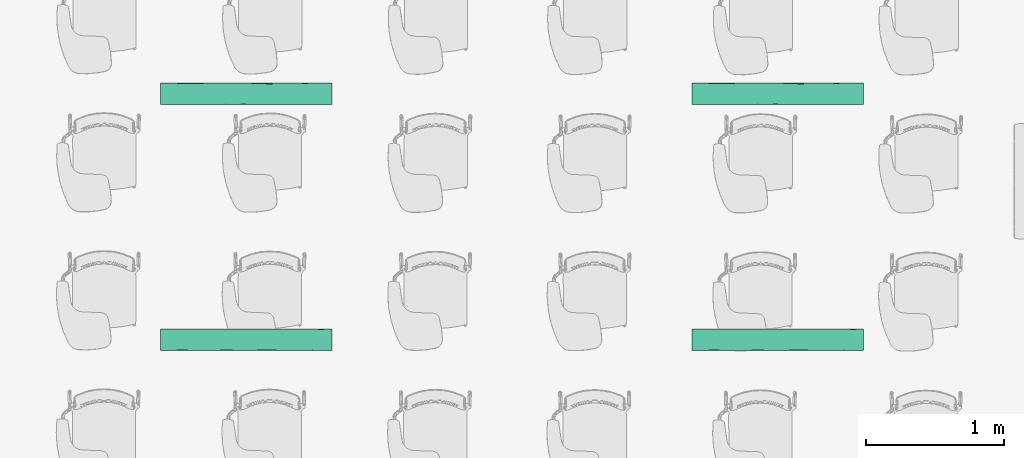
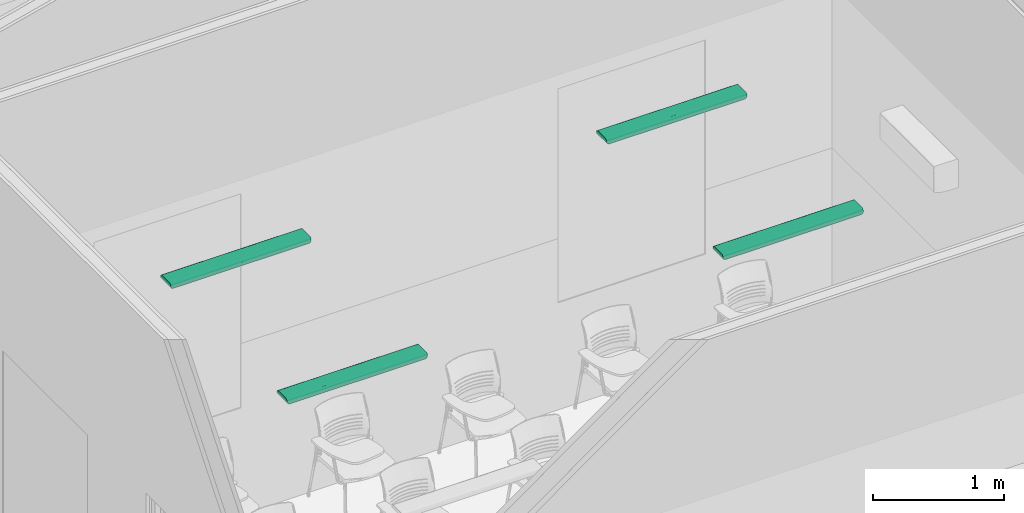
# One storey, part 53 of 155: 4 flow terminals.
"""IFC2X3 building model written with IfcOpenShell, lengths in metres."""

import ifcopenshell
import ifcopenshell.guid

model = None  # the IFC model being written
_history = None  # IfcOwnerHistory: only IFC2X3 demands one
_inside = {}  # id of a spatial element -> (the spatial element, [elements in it])
_under = {}  # id of a project, library or spatial element -> (it, [spatial elements below it])
_declared = {}  # id of a project -> (the project, [libraries it declares])
_typed = {}  # id of a type object -> (the type object, [elements of that type])
_made_of = {}  # id of a material, layer set ... -> (it, [elements and type objects made of it])


def new_model(schema):
    """Start an empty IFC model of exactly this schema.

    Asked for "IFC4X3", IfcOpenShell would pick the latest addendum, in which some entities
    have other attributes; the version numbers below select the first issue.
    IFC2X3 requires an IfcOwnerHistory on every rooted entity: one is made here for all.
    """
    global model, _history
    if schema == "IFC4X3":
        model = ifcopenshell.file(schema_version=(4, 3, 0, 0))
    else:
        model = ifcopenshell.file(schema=schema)
    _inside.clear()
    _under.clear()
    _declared.clear()
    _typed.clear()
    _made_of.clear()
    _history = None
    if model.schema == "IFC2X3":
        org = make("IfcOrganization", Name="unknown")
        user = make(
            "IfcPersonAndOrganization",
            ThePerson=make("IfcPerson", FamilyName="unknown"),
            TheOrganization=org,
        )
        app = make(
            "IfcApplication",
            ApplicationDeveloper=org,
            Version="unknown",
            ApplicationFullName="unknown",
            ApplicationIdentifier="unknown",
        )
        _history = make(
            "IfcOwnerHistory",
            OwningUser=user,
            OwningApplication=app,
            ChangeAction="ADDED",
            CreationDate=0,
        )
    return model


def make(cls, **values):
    """One entity of the class cls with the attributes given. An attribute that is None is left unset."""
    return model.create_entity(
        cls, **{name: value for name, value in values.items() if value is not None}
    )


def entity(cls, *values):
    """Any entity or typed value of the class cls, its attributes in the order of the schema. None: left unset."""
    e = model.create_entity(cls)
    for i, value in enumerate(values):
        if value is not None:
            e[i] = value
    return e


def rooted(cls, **values):
    """An entity with a GlobalId (a new one), such as an element, a storey or a relation."""
    return make(cls, GlobalId=ifcopenshell.guid.new(), OwnerHistory=_history, **values)


def si_unit(unit_type, name, prefix=None):
    """IfcSIUnit, for example si_unit("LENGTHUNIT", "METRE", prefix="MILLI")."""
    return make("IfcSIUnit", UnitType=unit_type, Prefix=prefix, Name=name)


def converted_unit(unit_type, name, factor, base, dimensions=None, offset=None):
    """IfcConversionBasedUnit, such as the inch: factor (a typed value) times the base unit."""
    return make(
        "IfcConversionBasedUnit"
        if offset is None
        else "IfcConversionBasedUnitWithOffset",
        ConversionOffset=offset,
        Dimensions=None
        if dimensions is None
        else entity("IfcDimensionalExponents", *dimensions),
        UnitType=unit_type,
        Name=name,
        ConversionFactor=make(
            "IfcMeasureWithUnit", ValueComponent=factor, UnitComponent=base
        ),
    )


def derived_unit(unit_type, elements):
    """IfcDerivedUnit: a product of units, each with its exponent."""
    return make(
        "IfcDerivedUnit",
        Elements=[
            make("IfcDerivedUnitElement", Unit=unit, Exponent=power)
            for unit, power in elements
        ],
        UnitType=unit_type,
    )


def assignment(units):
    """IfcUnitAssignment: the units of a project."""
    return None if units is None else make("IfcUnitAssignment", Units=units)


def point(xyz):
    """IfcCartesianPoint."""
    return None if xyz is None else make("IfcCartesianPoint", Coordinates=xyz)


def direction(xyz):
    """IfcDirection."""
    return None if xyz is None else make("IfcDirection", DirectionRatios=xyz)


def frame(location, z_axis=None, x_axis=None):
    """IfcAxis2Placement3D, a coordinate frame: its origin and axes. An axis left out is left unset."""
    return make(
        "IfcAxis2Placement3D",
        Location=point(location),
        Axis=direction(z_axis),
        RefDirection=direction(x_axis),
    )


def origin():
    """The frame at (0, 0, 0) with its axes left unset."""
    return frame((0.0, 0.0, 0.0))


def place(relative_to, where):
    """IfcLocalPlacement: puts the frame where relative to a parent placement (None: the world)."""
    return make(
        "IfcLocalPlacement", PlacementRelTo=relative_to, RelativePlacement=where
    )


def context(
    kind, dimensions, precision=None, world=None, true_north=None, identifier=None
):
    """IfcGeometricRepresentationContext, for example the 3D "Model" context."""
    return make(
        "IfcGeometricRepresentationContext",
        ContextIdentifier=identifier,
        ContextType=kind,
        CoordinateSpaceDimension=dimensions,
        Precision=precision,
        WorldCoordinateSystem=world,
        TrueNorth=true_north,
    )


def subcontext(parent, identifier, kind, view, scale=None):
    """IfcGeometricRepresentationSubContext, for example "Body" below "Model"."""
    return make(
        "IfcGeometricRepresentationSubContext",
        ContextIdentifier=identifier,
        ContextType=kind,
        ParentContext=parent,
        TargetScale=scale,
        TargetView=view,
    )


def project(units=None, contexts=None):
    """IfcProject with its units and contexts."""
    return rooted(
        "IfcProject",
        Name="project",
        RepresentationContexts=contexts,
        UnitsInContext=assignment(units),
    )


def spatial(cls, under=None, at=None, **own):
    """A site, building, storey or space (cls), placed at a placement, below another one or the project."""
    s = rooted(cls, ObjectPlacement=at, **own)
    if under is not None:
        _under.setdefault(under.id(), (under, []))[1].append(s)
    return s


def faces_of(points, faces, orient=None, outer=None):
    """IfcFace entities. A face is a list of loops; a loop is a list of indices into points, from 0.

    orient and outer hold one flag for each loop. By default every Orientation is true, the
    first loop of a face is its IfcFaceOuterBound and the others are IfcFaceBound.
    """
    made = []
    for i, loops in enumerate(faces):
        bounds = []
        for j, loop in enumerate(loops):
            is_outer = j == 0 if outer is None else outer[i][j]
            bounds.append(
                make(
                    "IfcFaceOuterBound" if is_outer else "IfcFaceBound",
                    Bound=make("IfcPolyLoop", Polygon=[points[k] for k in loop]),
                    Orientation=True if orient is None else orient[i][j],
                )
            )
        made.append(make("IfcFace", Bounds=bounds))
    return made


def faceted_brep(points, faces, orient=None, outer=None, voids=None):
    """IfcFacetedBrep: a solid bounded by flat faces; with voids (closed shells), ...WithVoids."""
    shared = [point(p) for p in points]
    hull = make("IfcClosedShell", CfsFaces=faces_of(shared, faces, orient, outer))
    if voids is None:
        return make("IfcFacetedBrep", Outer=hull)
    return make(
        "IfcFacetedBrepWithVoids",
        Outer=hull,
        Voids=[
            make(cls, CfsFaces=faces_of(shared, fs, o, b)) for cls, fs, o, b in voids
        ],
    )


def shape(context_of_items, identifier, shape_type, items):
    """IfcShapeRepresentation: the items that make up one representation, for example the "Body"."""
    return make(
        "IfcShapeRepresentation",
        ContextOfItems=context_of_items,
        RepresentationIdentifier=identifier,
        RepresentationType=shape_type,
        Items=items,
    )


def source(mapping_origin, context_of_items, identifier, shape_type, items):
    """IfcRepresentationMap: a shape defined once, which mapped items show again and again."""
    return make(
        "IfcRepresentationMap",
        MappingOrigin=mapping_origin,
        MappedRepresentation=shape(context_of_items, identifier, shape_type, items),
    )


def transform(
    local_origin,
    x_axis=None,
    y_axis=None,
    z_axis=None,
    scale=None,
    scale2=None,
    scale3=None,
    uniform=True,
):
    """IfcCartesianTransformationOperator3D, or its non-uniform kind. x_axis, y_axis, z_axis: its Axis1, 2, 3."""
    if uniform:
        return make(
            "IfcCartesianTransformationOperator3D",
            Axis1=direction(x_axis),
            Axis2=direction(y_axis),
            LocalOrigin=point(local_origin),
            Scale=scale,
            Axis3=direction(z_axis),
        )
    return make(
        "IfcCartesianTransformationOperator3DnonUniform",
        Axis1=direction(x_axis),
        Axis2=direction(y_axis),
        LocalOrigin=point(local_origin),
        Scale=scale,
        Axis3=direction(z_axis),
        Scale2=scale2,
        Scale3=scale3,
    )


def mapped(mapping_source, mapping_target):
    """IfcMappedItem: shows the shape of a source again, moved by a transform."""
    return make(
        "IfcMappedItem", MappingSource=mapping_source, MappingTarget=mapping_target
    )


def material(Name=None, Category=None):
    """IfcMaterial."""
    return make("IfcMaterial", Name=Name, Category=Category)


def material_list(materials):
    """IfcMaterialList."""
    return make("IfcMaterialList", Materials=materials)


def made_of(thing, what):
    """Note that an element or type object is made of a material, layer set ...; save() writes the relation."""
    if what is not None:
        _made_of.setdefault(what.id(), (what, []))[1].append(thing)
    return thing


def type_object(cls, material=None, **own):
    """A type object (cls), such as IfcWallType, which elements share."""
    return made_of(rooted(cls, **own), material)


def type_shapes(of_type, sources):
    """Give a type object the sources (RepresentationMaps) that its elements show as mapped items."""
    of_type.RepresentationMaps = sources


def element(
    cls,
    number,
    at=None,
    inside=None,
    cuts=None,
    type_object=None,
    material=None,
    context=None,
    identifier="Body",
    shape_type=None,
    held_by="IfcProductDefinitionShape",
    body=None,
    shapes=None,
    **own,
):
    """One element of the class cls, such as IfcWall. Its Tag is "e" and its number.

    at: its placement. inside: the storey or other place that contains it. cuts: it is an
    opening in that element (IfcRelVoidsElement). A single representation is given by context,
    identifier, shape_type and body (its items); several are given by shapes. held_by: the class
    of the entity that holds the representations. save() writes the other relations.
    """
    e = rooted(cls, Tag="e%d" % number, ObjectPlacement=at, **own)
    if body is not None:
        shapes = [shape(context, identifier, shape_type, body)]
    if shapes is not None:
        e.Representation = make(held_by, Representations=shapes)
    if inside is not None:
        _inside.setdefault(inside.id(), (inside, []))[1].append(e)
    if cuts is not None:
        rooted(
            "IfcRelVoidsElement", RelatingBuildingElement=cuts, RelatedOpeningElement=e
        )
    if type_object is not None:
        _typed.setdefault(type_object.id(), (type_object, []))[1].append(e)
    return made_of(e, material)


def aggregate(whole, parts):
    """IfcRelAggregates: a whole, such as a stair, and the parts it consists of."""
    return rooted("IfcRelAggregates", RelatingObject=whole, RelatedObjects=parts)


def save(model, path):
    """Write the relations noted so far, then the file.

    IfcRelAggregates (storeys below a building ...), IfcRelContainedInSpatialStructure (elements
    in a storey), IfcRelDefinesByType, IfcRelAssociatesMaterial and IfcRelDeclares: one each for
    every whole, place, type object, material and project.
    """
    for whole, parts in _under.values():
        aggregate(whole, parts)
    for where, things in _inside.values():
        rooted(
            "IfcRelContainedInSpatialStructure",
            RelatedElements=things,
            RelatingStructure=where,
        )
    for kind, things in _typed.values():
        rooted("IfcRelDefinesByType", RelatedObjects=things, RelatingType=kind)
    for what, things in _made_of.values():
        rooted("IfcRelAssociatesMaterial", RelatedObjects=things, RelatingMaterial=what)
    for by, libraries in _declared.values():
        rooted("IfcRelDeclares", RelatingContext=by, RelatedDefinitions=libraries)
    model.write(path)


model = new_model("IFC2X3")

# Units and contexts
model_context = context("Model", 3, precision=1e-05, world=origin(), true_north=direction((6.12303176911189e-17, 1.0)))
body_context = subcontext(model_context, "Body", "Model", "MODEL_VIEW")
ifc_project = project(units=[si_unit("LENGTHUNIT", "METRE"), si_unit("AREAUNIT", "SQUARE_METRE"), si_unit("VOLUMEUNIT", "CUBIC_METRE"), converted_unit("PLANEANGLEUNIT", "DEGREE", entity("IfcRatioMeasure", 0.0174532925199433), si_unit("PLANEANGLEUNIT", "RADIAN"), dimensions=[0, 0, 0, 0, 0, 0, 0]), si_unit("MASSUNIT", "GRAM", prefix="KILO"), derived_unit("MASSDENSITYUNIT", [(si_unit("MASSUNIT", "GRAM", prefix="KILO"), 1), (si_unit("LENGTHUNIT", "METRE"), -3)]), si_unit("TIMEUNIT", "SECOND"), si_unit("FREQUENCYUNIT", "HERTZ"), si_unit("THERMODYNAMICTEMPERATUREUNIT", "DEGREE_CELSIUS"), derived_unit("THERMALTRANSMITTANCEUNIT", [(si_unit("MASSUNIT", "GRAM", prefix="KILO"), 1), (si_unit("THERMODYNAMICTEMPERATUREUNIT", "KELVIN"), -1), (si_unit("TIMEUNIT", "SECOND"), -3)]), derived_unit("VOLUMETRICFLOWRATEUNIT", [(si_unit("LENGTHUNIT", "METRE"), 3), (si_unit("TIMEUNIT", "SECOND"), -1)]), si_unit("ELECTRICCURRENTUNIT", "AMPERE"), si_unit("ELECTRICVOLTAGEUNIT", "VOLT"), si_unit("POWERUNIT", "WATT"), si_unit("FORCEUNIT", "NEWTON", prefix="KILO"), si_unit("ILLUMINANCEUNIT", "LUX"), si_unit("LUMINOUSFLUXUNIT", "LUMEN"), si_unit("LUMINOUSINTENSITYUNIT", "CANDELA"), derived_unit("USERDEFINED", [(si_unit("MASSUNIT", "GRAM", prefix="KILO"), -1), (si_unit("LENGTHUNIT", "METRE"), -2), (si_unit("TIMEUNIT", "SECOND"), 3), (si_unit("LUMINOUSFLUXUNIT", "LUMEN"), 1)]), derived_unit("LINEARVELOCITYUNIT", [(si_unit("LENGTHUNIT", "METRE"), 1), (si_unit("TIMEUNIT", "SECOND"), -1)]), si_unit("PRESSUREUNIT", "PASCAL"), derived_unit("USERDEFINED", [(si_unit("LENGTHUNIT", "METRE"), -2), (si_unit("MASSUNIT", "GRAM", prefix="KILO"), 1), (si_unit("TIMEUNIT", "SECOND"), -2)])], contexts=[model_context])

# Site, building, storey, space
site_placement = place(None, frame((26.9889013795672, -17.5624287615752, 0.0)))
site = spatial("IfcSite", under=ifc_project, at=site_placement, Name="Default", CompositionType="ELEMENT")
building_placement = place(site_placement, origin())
building = spatial("IfcBuilding", under=site, at=building_placement, Name="C. C. L. Monsenhor Antônio Sampaio", CompositionType="ELEMENT")
storey_placement = place(building_placement, frame((0.0, 0.0, 1.19999999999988)))
storey = spatial("IfcBuildingStorey", under=building, at=storey_placement, Name="Nível 1.2", CompositionType="ELEMENT", Elevation=1.19999999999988)
space_placement = place(storey_placement, origin())
space = spatial("IfcSpace", under=storey, at=space_placement, Name="81", CompositionType="ELEMENT", InteriorOrExteriorSpace="INTERNAL")

# Flow terminals
ifc_material_1 = material(Name="glass - blue - t85")
ifc_material_2 = material(Name="metal - aluminium")
ifc_material_list_1 = material_list([ifc_material_1, ifc_material_2])
ifc_material_list_2 = material_list([ifc_material_1, ifc_material_2])
light_fixture_type = type_object("IfcLightFixtureType", Name="BCS460 W16L124 1xLED24/840 MLO-PC", PredefinedType="NOTDEFINED", material=ifc_material_list_2)
shared_shape = source(origin(), body_context, "Body", "Brep", [
    faceted_brep([(0.585000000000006, 0.0435000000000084, -0.0460000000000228), (0.585000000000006, -0.0434999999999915, -0.0460000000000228), (0.585000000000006, -0.0434999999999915, -0.0490000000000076), (0.585000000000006, 0.0435000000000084, -0.0490000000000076), (-0.584999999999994, 0.0435000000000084, -0.0460000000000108), (-0.584999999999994, 0.0435000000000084, -0.0489999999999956), (-0.584999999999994, -0.0434999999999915, -0.0489999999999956), (-0.584999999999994, -0.0434999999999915, -0.0460000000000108)], [[[0, 1, 2, 3]], [[4, 5, 6, 7]], [[3, 5, 4, 0]], [[2, 6, 5, 3]], [[1, 7, 6, 2]], [[0, 4, 7, 1]]]),
    faceted_brep([(-0.584999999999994, -0.0434999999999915, -0.0489999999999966), (0.585000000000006, -0.0434999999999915, -0.0490000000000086), (0.585000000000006, -0.0554999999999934, -0.0490000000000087), (0.417543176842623, -0.0554999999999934, -0.0490000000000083), (0.334912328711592, -0.0554999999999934, -0.0490000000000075), (0.209867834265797, -0.0554999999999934, -0.0490000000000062), (0.0848246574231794, -0.0554999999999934, -0.0490000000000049), (-0.0826321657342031, -0.0554999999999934, -0.0490000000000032), (-0.250087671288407, -0.0554999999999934, -0.0490000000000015), (-0.417543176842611, -0.0554999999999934, -0.0489999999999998), (-0.584999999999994, -0.0554999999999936, -0.0489999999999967), (-0.584999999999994, 0.0435000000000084, -0.0489999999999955), (-0.584999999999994, 0.0555000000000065, -0.0489999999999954), (-0.417543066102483, 0.0555000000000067, -0.0489999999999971), (-0.334913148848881, 0.0555000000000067, -0.048999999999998), (-0.209868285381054, 0.0555000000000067, -0.0489999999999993), (-0.0848248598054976, 0.0555000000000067, -0.0490000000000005), (0.0826306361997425, 0.0555000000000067, -0.0490000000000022), (0.250087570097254, 0.0555000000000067, -0.049000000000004), (0.417544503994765, 0.0555000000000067, -0.0490000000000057), (0.585000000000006, 0.0555000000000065, -0.0490000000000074), (0.585000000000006, 0.0435000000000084, -0.0490000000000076), (0.585000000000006, -0.0434999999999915, -0.0190000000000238), (0.585000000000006, 0.0435000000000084, -0.0190000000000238), (0.585000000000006, 0.0614528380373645, -0.0482162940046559), (0.585000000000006, 0.0670000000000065, -0.0459185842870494), (0.585000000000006, 0.0717634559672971, -0.0422634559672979), (0.585000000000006, 0.0754185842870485, -0.0375000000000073), (0.585000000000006, 0.077716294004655, -0.0319528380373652), (0.585000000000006, 0.0785000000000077, -0.0260000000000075), (0.585000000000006, 0.0785000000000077, 0.0), (0.585000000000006, -0.0784999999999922, 0.0), (0.585000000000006, -0.0784999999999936, -0.02600000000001), (0.585000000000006, -0.0777162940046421, -0.031952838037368), (0.585000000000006, -0.0754185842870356, -0.03750000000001), (0.585000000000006, -0.0717634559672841, -0.0422634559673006), (0.585000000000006, -0.0669999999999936, -0.0459185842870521), (0.585000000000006, -0.0614528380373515, -0.0482162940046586), (-0.584999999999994, 0.0435000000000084, -0.0190000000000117), (-0.584999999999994, -0.0434999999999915, -0.0190000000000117), (-0.584999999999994, -0.0614528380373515, -0.0482162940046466), (-0.584999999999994, -0.0669999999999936, -0.0459185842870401), (-0.584999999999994, -0.0717634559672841, -0.0422634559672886), (-0.584999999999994, -0.0754185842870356, -0.037499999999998), (-0.584999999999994, -0.0777162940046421, -0.031952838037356), (-0.584999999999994, -0.0784999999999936, -0.025999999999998), (-0.584999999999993, -0.0784999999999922, 0.0), (-0.584999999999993, 0.0785000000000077, 0.0), (-0.584999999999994, 0.0785000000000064, -0.0259999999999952), (-0.584999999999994, 0.077716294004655, -0.0319528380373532), (-0.584999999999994, 0.0754185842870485, -0.0374999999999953), (-0.584999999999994, 0.0717634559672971, -0.0422634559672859), (-0.584999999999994, 0.0670000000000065, -0.0459185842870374), (-0.584999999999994, 0.0614528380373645, -0.0482162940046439), (0.417543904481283, 0.0785000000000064, -0.0260000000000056), (0.334912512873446, 0.0785000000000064, -0.0260000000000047), (0.209868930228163, 0.0785000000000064, -0.0260000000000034), (0.0848250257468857, 0.0785000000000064, -0.0260000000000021), (-0.0826310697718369, 0.0785000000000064, -0.0260000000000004), (-0.250087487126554, 0.0785000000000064, -0.0259999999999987), (-0.417543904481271, 0.0785000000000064, -0.025999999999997), (-0.430283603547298, 0.073747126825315, -0.0400015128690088), (-0.39346878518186, 0.069501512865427, -0.0442471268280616), (-0.441987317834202, 0.0643017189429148, -0.0472492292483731), (-0.435801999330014, 0.0759760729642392, -0.0364752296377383), (0.43028360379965, 0.0695015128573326, -0.0442471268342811), (0.393468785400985, 0.0737471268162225, -0.0400015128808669), (-0.166359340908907, 0.0777768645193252, -0.0317220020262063), (-0.333815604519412, 0.078144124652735, -0.0300303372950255), (0.441987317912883, 0.0767492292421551, -0.0348017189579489), (0.376228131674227, 0.0780233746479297, -0.0306580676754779), (-0.0103058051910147, 0.0779837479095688, -0.0308457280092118), (0.147346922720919, 0.0778835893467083, -0.0312891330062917), (0.0846877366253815, 0.0752228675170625, -0.0378325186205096), (0.113930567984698, 0.0669406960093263, -0.0459527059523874), (0.259392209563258, 0.0628104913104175, -0.0478072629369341), (0.138751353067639, 0.0626656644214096, -0.0478552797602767), (-0.327642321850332, 0.0767492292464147, -0.0348017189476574), (-0.44845841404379, 0.0775260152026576, -0.0326222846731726), (0.274715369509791, 0.0767492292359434, -0.0348017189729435), (0.37104983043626, 0.0643017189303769, -0.0472492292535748), (0.333815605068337, 0.0596187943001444, -0.0486282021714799), (0.0893720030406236, 0.0707479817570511, -0.0432191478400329), (-0.0153938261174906, 0.0683034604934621, -0.0451068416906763), (-0.376228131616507, 0.0601580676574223, -0.0485233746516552), (0.0434325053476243, 0.059742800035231, -0.048605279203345), (0.218757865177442, 0.0695015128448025, -0.0442471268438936), (0.464656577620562, 0.0597129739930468, -0.0486108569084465), (0.199843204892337, 0.0732493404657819, -0.0406274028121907), (-0.274715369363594, 0.0643017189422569, -0.0472492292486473), (-0.115235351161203, 0.073747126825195, -0.0400015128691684), (-0.150791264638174, 0.070206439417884, -0.0436839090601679), (-0.272759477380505, 0.0724713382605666, -0.0415233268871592), (-0.00814072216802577, 0.0636892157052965, -0.0474927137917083), (-0.14734692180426, 0.0607891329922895, -0.0483835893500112), (-0.269938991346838, 0.0692956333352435, -0.0444032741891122), (-0.201904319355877, 0.0758204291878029, -0.0367740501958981), (-0.0663340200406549, 0.0763921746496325, -0.0356185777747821), (-0.139314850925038, 0.066006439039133, -0.046460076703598), (-0.430283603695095, -0.0695015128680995, -0.0442471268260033), (-0.393468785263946, -0.073747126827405, -0.0400015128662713), (-0.44198731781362, -0.0767492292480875, -0.0348017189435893), (-0.435801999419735, -0.06597522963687, -0.0464760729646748), (0.430283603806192, -0.0737471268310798, -0.0400015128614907), (0.393468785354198, -0.0695015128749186, -0.0442471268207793), (-0.166359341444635, -0.061222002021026, -0.0482768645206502), (-0.333815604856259, -0.0595303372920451, -0.0486441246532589), (0.441987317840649, -0.0643017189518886, -0.0472492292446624), (0.37622813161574, -0.0601580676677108, -0.0485233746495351), (-0.0103058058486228, -0.0603457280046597, -0.0484837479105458), (0.147346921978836, -0.0607891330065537, -0.0483835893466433), (0.0846877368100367, -0.0673325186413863, -0.0457228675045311), (0.113930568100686, -0.0754527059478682, -0.0374406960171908), (0.259392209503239, -0.0773072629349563, -0.0333104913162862), (0.138751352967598, -0.0773552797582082, -0.0331656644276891), (-0.327642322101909, -0.0643017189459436, -0.047249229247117), (-0.448458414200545, -0.062122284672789, -0.048026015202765), (-0.417543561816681, -0.0784999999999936, -0.0259999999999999), (0.274715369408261, -0.0643017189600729, -0.0472492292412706), (0.371049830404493, -0.0767492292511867, -0.0348017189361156), (0.333815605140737, -0.0781282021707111, -0.0301187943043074), (0.250087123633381, -0.0784999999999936, -0.0260000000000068), (0.0893720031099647, -0.0727191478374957, -0.041247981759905), (-0.0153938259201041, -0.074606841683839, -0.0388034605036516), (-0.376228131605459, -0.0780233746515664, -0.0306580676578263), (0.0826306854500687, -0.0784999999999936, -0.026000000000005), (-0.0848257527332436, -0.0784999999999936, -0.0260000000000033), (0.0434325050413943, -0.0781052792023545, -0.030242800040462), (0.417543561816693, -0.0784999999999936, -0.0260000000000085), (0.21875786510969, -0.0737471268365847, -0.0400015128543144), (0.464656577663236, -0.0781108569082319, -0.0302129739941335), (0.19984320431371, -0.0701274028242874, -0.0437493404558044), (-0.274715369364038, -0.0767492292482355, -0.0348017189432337), (-0.115235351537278, -0.0695015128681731, -0.0442471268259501), (-0.150791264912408, -0.0731839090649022, -0.0407064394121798), (-0.209869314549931, -0.0784999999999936, -0.026000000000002), (-0.334912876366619, -0.0784999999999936, -0.0260000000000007), (-0.272759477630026, -0.071023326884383, -0.0429713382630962), (-0.00814072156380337, -0.0769927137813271, -0.0341892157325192), (-0.147346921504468, -0.0778835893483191, -0.03128913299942), (-0.269938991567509, -0.0739032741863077, -0.0397956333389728), (-0.201904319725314, -0.0662740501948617, -0.0463204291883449), (-0.0663340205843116, -0.0651185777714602, -0.0468921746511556), (-0.139314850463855, -0.0759600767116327, -0.0365064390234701)], [[[0, 1, 2, 3, 4, 5, 6, 7, 8, 9, 10]], [[11, 12, 13, 14, 15, 16, 17, 18, 19, 20, 21]], [[22, 23, 21, 20, 24, 25, 26, 27, 28, 29, 30, 31, 32, 33, 34, 35, 36, 37, 2, 1]], [[12, 11, 38, 39, 0, 10, 40, 41, 42, 43, 44, 45, 46, 47, 48, 49, 50, 51, 52, 53]], [[47, 30, 29, 54, 55, 56, 57, 58, 59, 60, 48]], [[61, 51, 50]], [[62, 51, 61]], [[51, 62, 52]], [[62, 63, 52]], [[63, 53, 52]], [[61, 50, 64]], [[26, 65, 66]], [[26, 25, 65]], [[54, 29, 28]], [[67, 68, 59]], [[69, 70, 28]], [[71, 72, 73]], [[74, 75, 76]], [[26, 66, 27]], [[77, 78, 68]], [[13, 12, 53]], [[69, 27, 66]], [[79, 73, 72]], [[24, 80, 25]], [[70, 79, 72]], [[69, 28, 27]], [[75, 81, 18]], [[82, 74, 83]], [[63, 84, 53]], [[17, 16, 85]], [[19, 18, 81]], [[75, 74, 86]], [[87, 81, 80]], [[73, 79, 88]], [[70, 56, 55, 54]], [[80, 86, 65]], [[89, 63, 62]], [[90, 83, 91]], [[84, 15, 14, 13]], [[61, 77, 92]], [[59, 68, 60]], [[78, 49, 48]], [[20, 87, 24]], [[93, 76, 85]], [[66, 65, 86]], [[65, 25, 80]], [[62, 61, 92]], [[77, 64, 78]], [[92, 90, 91]], [[89, 94, 84]], [[28, 70, 54]], [[79, 69, 66]], [[53, 84, 13]], [[91, 95, 92]], [[96, 90, 92]], [[56, 72, 57]], [[70, 69, 79]], [[70, 72, 56]], [[67, 59, 58]], [[71, 67, 58]], [[71, 58, 57]], [[83, 90, 82]], [[88, 82, 73]], [[96, 97, 90]], [[71, 73, 97]], [[15, 94, 16]], [[84, 63, 89]], [[84, 94, 15]], [[98, 83, 93]], [[83, 98, 91]], [[18, 17, 76]], [[62, 92, 95]], [[98, 95, 91]], [[98, 94, 89]], [[74, 76, 93]], [[93, 94, 98]], [[85, 16, 94]], [[19, 81, 87]], [[80, 81, 75]], [[19, 87, 20]], [[24, 87, 80]], [[78, 48, 60]], [[77, 68, 67]], [[68, 78, 60]], [[49, 78, 50]], [[78, 64, 50]], [[64, 77, 61]], [[94, 93, 85]], [[85, 76, 17]], [[97, 67, 71]], [[72, 71, 57]], [[77, 67, 96]], [[90, 97, 73]], [[97, 96, 67]], [[77, 96, 92]], [[80, 75, 86]], [[76, 75, 18]], [[95, 89, 62]], [[89, 95, 98]], [[86, 74, 82]], [[83, 74, 93]], [[86, 82, 88]], [[73, 82, 90]], [[88, 66, 86]], [[66, 88, 79]], [[99, 42, 41]], [[100, 42, 99]], [[42, 100, 43]], [[100, 101, 43]], [[101, 44, 43]], [[99, 41, 102]], [[35, 103, 104]], [[35, 34, 103]], [[3, 2, 37]], [[105, 106, 8]], [[107, 108, 37]], [[109, 110, 111]], [[112, 113, 114]], [[35, 104, 36]], [[115, 116, 106]], [[117, 45, 44]], [[107, 36, 104]], [[118, 111, 110]], [[33, 119, 34]], [[108, 118, 110]], [[107, 37, 36]], [[113, 120, 121]], [[122, 112, 123]], [[101, 124, 44]], [[125, 126, 127]], [[128, 121, 120]], [[113, 112, 129]], [[130, 120, 119]], [[111, 118, 131]], [[108, 5, 4, 3]], [[119, 129, 103]], [[132, 101, 100]], [[133, 123, 134]], [[124, 135, 136, 117]], [[99, 115, 137]], [[8, 106, 9]], [[116, 40, 10]], [[32, 130, 33]], [[138, 114, 127]], [[104, 103, 129]], [[103, 34, 119]], [[100, 99, 137]], [[115, 102, 116]], [[137, 133, 134]], [[132, 139, 124]], [[37, 108, 3]], [[118, 107, 104]], [[44, 124, 117]], [[134, 140, 137]], [[141, 133, 137]], [[5, 110, 6]], [[108, 107, 118]], [[108, 110, 5]], [[105, 8, 7]], [[109, 105, 7]], [[109, 7, 6]], [[123, 133, 122]], [[131, 122, 111]], [[141, 142, 133]], [[109, 111, 142]], [[135, 139, 126]], [[124, 101, 132]], [[124, 139, 135]], [[143, 123, 138]], [[123, 143, 134]], [[121, 125, 114]], [[100, 137, 140]], [[143, 140, 134]], [[143, 139, 132]], [[112, 114, 138]], [[138, 139, 143]], [[127, 126, 139]], [[128, 120, 130]], [[119, 120, 113]], [[128, 130, 32]], [[33, 130, 119]], [[116, 10, 9]], [[115, 106, 105]], [[106, 116, 9]], [[40, 116, 41]], [[116, 102, 41]], [[102, 115, 99]], [[139, 138, 127]], [[127, 114, 125]], [[142, 105, 109]], [[110, 109, 6]], [[115, 105, 141]], [[133, 142, 111]], [[142, 141, 105]], [[115, 141, 137]], [[119, 113, 129]], [[114, 113, 121]], [[140, 132, 100]], [[132, 140, 143]], [[129, 112, 122]], [[123, 112, 138]], [[129, 122, 131]], [[111, 122, 133]], [[131, 104, 129]], [[104, 131, 118]], [[31, 46, 45, 117, 136, 135, 126, 125, 121, 128, 32]], [[46, 31, 30, 47]], [[21, 23, 38, 11]], [[22, 1, 0, 39]], [[23, 22, 39, 38]]]),
    faceted_brep([(0.597000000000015, 0.0785000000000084, 0.0), (0.602952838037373, 0.0785000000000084, -0.000783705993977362), (0.608500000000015, 0.0785000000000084, -0.00308141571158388), (0.613263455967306, 0.0785000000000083, -0.00673654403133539), (0.616918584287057, 0.0785000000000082, -0.011499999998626), (0.619216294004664, 0.0785000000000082, -0.017047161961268), (0.620000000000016, 0.0785000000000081, -0.0229999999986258), (0.620000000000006, 0.0785000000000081, -0.0259999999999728), (0.585000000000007, 0.0785000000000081, -0.0259999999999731), (0.585000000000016, 0.0785000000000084, 0.0), (0.619216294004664, -0.0784999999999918, -0.0170471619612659), (0.616918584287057, -0.0784999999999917, -0.0114999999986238), (0.613263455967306, -0.0784999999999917, -0.00673654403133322), (0.608500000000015, -0.0784999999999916, -0.00308141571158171), (0.602952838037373, -0.0784999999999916, -0.000783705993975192), (0.597000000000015, -0.0784999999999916, 0.0), (0.585000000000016, -0.0784999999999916, 0.0), (0.585000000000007, -0.0784999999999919, -0.0260000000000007), (0.620000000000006, -0.0784999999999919, -0.0260000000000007), (0.620000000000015, -0.0784999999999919, -0.0229999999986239), (0.620000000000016, 0.0669999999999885, -0.0459185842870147), (0.620000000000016, 0.0717634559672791, -0.0422634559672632), (0.620000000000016, 0.0754185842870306, -0.0374999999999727), (0.620000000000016, 0.0777162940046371, -0.0319528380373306), (0.620000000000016, -0.0777162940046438, -0.0319528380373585), (0.620000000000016, -0.0754185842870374, -0.0375000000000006), (0.620000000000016, -0.071763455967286, -0.0422634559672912), (0.620000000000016, -0.0669999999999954, -0.0459185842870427), (0.620000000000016, -0.0614528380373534, -0.0482162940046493), (0.620000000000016, -0.0554999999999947, -0.0489999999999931), (0.620000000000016, 0.0554999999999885, -0.0489999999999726), (0.620000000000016, 0.0614528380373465, -0.0482162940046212), (0.585000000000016, 0.0554999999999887, -0.048999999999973), (0.585000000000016, -0.0554999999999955, -0.0490000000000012), (0.585000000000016, -0.0614528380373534, -0.0482162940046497), (0.585000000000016, -0.0669999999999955, -0.0459185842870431), (0.585000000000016, -0.071763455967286, -0.0422634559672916), (0.585000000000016, -0.0754185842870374, -0.0375000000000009), (0.585000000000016, -0.0777162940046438, -0.0319528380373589), (0.585000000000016, 0.0777162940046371, -0.031952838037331), (0.585000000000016, 0.0754185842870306, -0.037499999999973), (0.585000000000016, 0.0717634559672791, -0.0422634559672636), (0.585000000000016, 0.0669999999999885, -0.0459185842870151), (0.585000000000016, 0.0614528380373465, -0.0482162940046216)], [[[0, 1, 2, 3, 4, 5, 6, 7, 8, 9]], [[10, 11, 12, 13, 14, 15, 16, 17, 18, 19]], [[20, 21, 22, 23, 7, 6, 19, 18, 24, 25, 26, 27, 28, 29, 30, 31]], [[32, 33, 34, 35, 36, 37, 38, 17, 16, 9, 8, 39, 40, 41, 42, 43]], [[16, 15, 0, 9]], [[11, 10, 5, 4]], [[12, 11, 4, 3]], [[6, 5, 10, 19]], [[14, 13, 2, 1]], [[15, 14, 1, 0]], [[2, 13, 12, 3]], [[43, 31, 30, 32]], [[43, 42, 20, 31]], [[21, 20, 42, 41]], [[23, 22, 40, 39]], [[7, 23, 39, 8]], [[40, 22, 21, 41]], [[29, 33, 32, 30]], [[25, 24, 38, 37]], [[26, 25, 37, 36]], [[17, 38, 24, 18]], [[28, 27, 35, 34]], [[29, 28, 34, 33]], [[35, 27, 26, 36]]]),
    faceted_brep([(-0.608499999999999, 0.0785000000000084, -0.00308141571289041), (-0.602952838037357, 0.0785000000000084, -0.000783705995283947), (-0.597, 0.0785000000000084, 0.0), (-0.584999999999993, 0.0785000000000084, 0.0), (-0.584999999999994, 0.0785000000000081, -0.0260000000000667), (-0.619999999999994, 0.0785000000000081, -0.0260000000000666), (-0.619999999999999, 0.0785000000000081, -0.0229999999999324), (-0.619216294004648, 0.0785000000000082, -0.0170471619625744), (-0.616918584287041, 0.0785000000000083, -0.0114999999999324), (-0.61326345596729, 0.0785000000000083, -0.00673654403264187), (-0.584999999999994, -0.0784999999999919, -0.0260000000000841), (-0.584999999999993, -0.0784999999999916, 0.0), (-0.596999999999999, -0.0784999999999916, 0.0), (-0.602952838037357, -0.0784999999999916, -0.000783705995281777), (-0.608499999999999, -0.0784999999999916, -0.00308141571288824), (-0.61326345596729, -0.0784999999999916, -0.0067365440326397), (-0.616918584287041, -0.0784999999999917, -0.0114999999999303), (-0.619216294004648, -0.0784999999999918, -0.0170471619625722), (-0.619999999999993, -0.0784999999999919, -0.0229999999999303), (-0.619999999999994, -0.0784999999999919, -0.0260000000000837), (-0.619999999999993, 0.0777162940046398, -0.0319528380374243), (-0.619999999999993, 0.0754185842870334, -0.0375000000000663), (-0.619999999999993, 0.071763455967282, -0.042263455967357), (-0.619999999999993, 0.0669999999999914, -0.0459185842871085), (-0.619999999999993, 0.0614528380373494, -0.048216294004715), (-0.619999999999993, 0.0554999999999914, -0.0490000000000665), (-0.619999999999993, -0.0554999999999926, -0.0490000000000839), (-0.619999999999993, -0.0614528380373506, -0.0482162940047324), (-0.619999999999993, -0.0669999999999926, -0.0459185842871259), (-0.619999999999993, -0.0717634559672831, -0.0422634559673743), (-0.619999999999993, -0.0754185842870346, -0.0375000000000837), (-0.619999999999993, -0.0777162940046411, -0.0319528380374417), (-0.584999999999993, 0.0614528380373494, -0.0482162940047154), (-0.584999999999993, 0.0669999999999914, -0.0459185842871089), (-0.584999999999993, 0.071763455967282, -0.0422634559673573), (-0.584999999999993, 0.0754185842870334, -0.0375000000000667), (-0.584999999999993, 0.0777162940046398, -0.0319528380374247), (-0.584999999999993, -0.0777162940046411, -0.0319528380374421), (-0.584999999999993, -0.0754185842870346, -0.0375000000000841), (-0.584999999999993, -0.0717634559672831, -0.0422634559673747), (-0.584999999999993, -0.0669999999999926, -0.0459185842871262), (-0.584999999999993, -0.0614528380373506, -0.0482162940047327), (-0.584999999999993, -0.0554999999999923, -0.0490000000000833), (-0.584999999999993, 0.0554999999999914, -0.0490000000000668)], [[[0, 1, 2, 3, 4, 5, 6, 7, 8, 9]], [[10, 11, 12, 13, 14, 15, 16, 17, 18, 19]], [[5, 20, 21, 22, 23, 24, 25, 26, 27, 28, 29, 30, 31, 19, 18, 6]], [[32, 33, 34, 35, 36, 4, 3, 11, 10, 37, 38, 39, 40, 41, 42, 43]], [[12, 11, 3, 2]], [[14, 13, 1, 0]], [[15, 14, 0, 9]], [[2, 1, 13, 12]], [[17, 16, 8, 7]], [[18, 17, 7, 6]], [[8, 16, 15, 9]], [[22, 21, 35, 34]], [[36, 20, 5, 4]], [[21, 20, 36, 35]], [[24, 23, 33, 32]], [[25, 24, 32, 43]], [[33, 23, 22, 34]], [[26, 25, 43, 42]], [[28, 27, 41, 40]], [[29, 28, 40, 39]], [[42, 41, 27, 26]], [[31, 30, 38, 37]], [[19, 31, 37, 10]], [[38, 30, 29, 39]]]),
])
type_shapes(light_fixture_type, [shared_shape])
flow_terminal_1_placement = place(space_placement, frame((-8.21555229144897, -31.1130663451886, 3.1), z_axis=(0.0, 0.0, -1.0), x_axis=(-1.0, 0.0, 0.0)))
element("IfcFlowTerminal", 1, at=flow_terminal_1_placement, inside=space, type_object=light_fixture_type, material=ifc_material_list_1, Name="63_PHILIPS_smartform-LED-surface_f:BCS460 W16L124 1xLED24/840 MLO-PC", ObjectType="BCS460 W16L124 1xLED24/840 MLO-PC", context=body_context, shape_type="MappedRepresentation", body=[
    mapped(shared_shape, transform((0.0, 0.0, 0.0), scale=1.0)),
])
ifc_material_list_3 = material_list([ifc_material_1, ifc_material_2])
flow_terminal_2_placement = place(space_placement, frame((-12.065552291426, -31.1130663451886, 3.1), z_axis=(0.0, 0.0, -1.0), x_axis=(-1.0, 0.0, 0.0)))
element("IfcFlowTerminal", 2, at=flow_terminal_2_placement, inside=space, type_object=light_fixture_type, material=ifc_material_list_3, Name="63_PHILIPS_smartform-LED-surface_f:BCS460 W16L124 1xLED24/840 MLO-PC", ObjectType="BCS460 W16L124 1xLED24/840 MLO-PC", context=body_context, shape_type="MappedRepresentation", body=[
    mapped(shared_shape, transform((0.0, 0.0, 0.0), scale=1.0)),
])
ifc_material_list_4 = material_list([ifc_material_1, ifc_material_2])
flow_terminal_3_placement = place(space_placement, frame((-8.21555229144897, -29.333066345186, 3.1), z_axis=(0.0, 0.0, -1.0), x_axis=(-1.0, 0.0, 0.0)))
element("IfcFlowTerminal", 3, at=flow_terminal_3_placement, inside=space, type_object=light_fixture_type, material=ifc_material_list_4, Name="63_PHILIPS_smartform-LED-surface_f:BCS460 W16L124 1xLED24/840 MLO-PC", ObjectType="BCS460 W16L124 1xLED24/840 MLO-PC", context=body_context, shape_type="MappedRepresentation", body=[
    mapped(shared_shape, transform((0.0, 0.0, 0.0), scale=1.0)),
])
ifc_material_list_5 = material_list([ifc_material_1, ifc_material_2])
flow_terminal_4_placement = place(space_placement, frame((-12.065552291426, -29.333066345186, 3.1), z_axis=(0.0, 0.0, -1.0), x_axis=(-1.0, 0.0, 0.0)))
element("IfcFlowTerminal", 4, at=flow_terminal_4_placement, inside=space, type_object=light_fixture_type, material=ifc_material_list_5, Name="63_PHILIPS_smartform-LED-surface_f:BCS460 W16L124 1xLED24/840 MLO-PC", ObjectType="BCS460 W16L124 1xLED24/840 MLO-PC", context=body_context, shape_type="MappedRepresentation", body=[
    mapped(shared_shape, transform((0.0, 0.0, 0.0), scale=1.0)),
])

save(model, "model.ifc")
